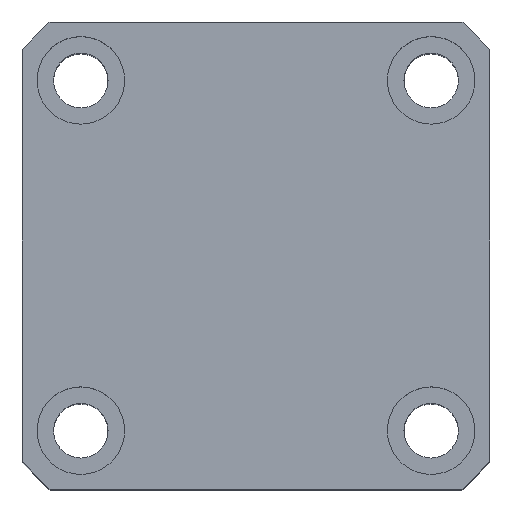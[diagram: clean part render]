
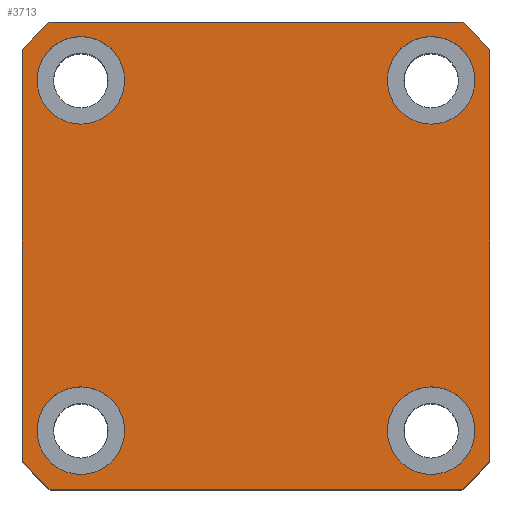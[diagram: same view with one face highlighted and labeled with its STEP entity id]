
A CAD part, top view. The second image highlights one B-rep face of the part: STEP entity #3713.
In plain terms, the highlighted planar face has unit normal (0, 0, 1) as drawn and (1, 0, 0) by its records, which use the part's own axes.
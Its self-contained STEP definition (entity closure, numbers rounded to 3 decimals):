
#16 = ORIENTED_EDGE ( 'NONE', *, *, #7420, .F. ) ;
#84 = EDGE_CURVE ( 'NONE', #7331, #7731, #7728, .T. ) ;
#226 = EDGE_CURVE ( 'NONE', #2136, #336, #976, .T. ) ;
#336 = VERTEX_POINT ( 'NONE', #572 ) ;
#419 = DIRECTION ( 'NONE',  ( 0., 0., -1. ) ) ;
#422 = CARTESIAN_POINT ( 'NONE',  ( 55., 21.166, 24. ) ) ;
#466 = AXIS2_PLACEMENT_3D ( 'NONE', #6757, #3056, #7376 ) ;
#572 = CARTESIAN_POINT ( 'NONE',  ( 55., 24., -21.166 ) ) ;
#645 = ORIENTED_EDGE ( 'NONE', *, *, #7088, .T. ) ;
#722 = AXIS2_PLACEMENT_3D ( 'NONE', #7532, #7505, #7385 ) ;
#737 = ORIENTED_EDGE ( 'NONE', *, *, #6984, .T. ) ;
#741 = VERTEX_POINT ( 'NONE', #3763 ) ;
#763 = CARTESIAN_POINT ( 'NONE',  ( 55., 24., -24. ) ) ;
#933 = VERTEX_POINT ( 'NONE', #7943 ) ;
#952 = CARTESIAN_POINT ( 'NONE',  ( 55., 18., 22.5 ) ) ;
#965 = AXIS2_PLACEMENT_3D ( 'NONE', #5442, #5469, #5523 ) ;
#968 = EDGE_LOOP ( 'NONE', ( #1481, #5223 ) ) ;
#976 = CIRCLE ( 'NONE', #722, 32. ) ;
#986 = CIRCLE ( 'NONE', #965, 4.5 ) ;
#1043 = EDGE_CURVE ( 'NONE', #5661, #2515, #986, .T. ) ;
#1115 = AXIS2_PLACEMENT_3D ( 'NONE', #3331, #7651, #3973 ) ;
#1153 = EDGE_LOOP ( 'NONE', ( #645, #2388, #5836, #3103, #7415, #737, #2576, #6685 ) ) ;
#1233 = AXIS2_PLACEMENT_3D ( 'NONE', #4364, #7487, #6172 ) ;
#1417 = DIRECTION ( 'NONE',  ( 1., 0., 0. ) ) ;
#1420 = CARTESIAN_POINT ( 'NONE',  ( 55., -21.166, 24. ) ) ;
#1456 = EDGE_CURVE ( 'NONE', #2853, #1555, #7450, .T. ) ;
#1464 = CARTESIAN_POINT ( 'NONE',  ( 55., -18., -22.5 ) ) ;
#1481 = ORIENTED_EDGE ( 'NONE', *, *, #2280, .F. ) ;
#1537 = EDGE_LOOP ( 'NONE', ( #4432, #16 ) ) ;
#1555 = VERTEX_POINT ( 'NONE', #7543 ) ;
#1619 = EDGE_CURVE ( 'NONE', #1555, #2853, #3383, .T. ) ;
#1707 = CARTESIAN_POINT ( 'NONE',  ( 55., -21.166, -24. ) ) ;
#1901 = CARTESIAN_POINT ( 'NONE',  ( 55., 18., 13.5 ) ) ;
#2059 = CARTESIAN_POINT ( 'NONE',  ( 55., -18., 18. ) ) ;
#2086 = ORIENTED_EDGE ( 'NONE', *, *, #1456, .F. ) ;
#2105 = EDGE_CURVE ( 'NONE', #5103, #741, #5334, .T. ) ;
#2136 = VERTEX_POINT ( 'NONE', #4570 ) ;
#2153 = VECTOR ( 'NONE', #2619, 1000. ) ;
#2248 = DIRECTION ( 'NONE',  ( 1., 0., 0. ) ) ;
#2280 = EDGE_CURVE ( 'NONE', #741, #5103, #7816, .T. ) ;
#2372 = FACE_BOUND ( 'NONE', #1537, .T. ) ;
#2376 = PLANE ( 'NONE',  #466 ) ;
#2388 = ORIENTED_EDGE ( 'NONE', *, *, #226, .T. ) ;
#2504 = CARTESIAN_POINT ( 'NONE',  ( 55., 0., 0. ) ) ;
#2515 = VERTEX_POINT ( 'NONE', #952 ) ;
#2576 = ORIENTED_EDGE ( 'NONE', *, *, #5620, .T. ) ;
#2590 = CARTESIAN_POINT ( 'NONE',  ( 55., -18., 22.5 ) ) ;
#2619 = DIRECTION ( 'NONE',  ( 0., 1., 0. ) ) ;
#2678 = DIRECTION ( 'NONE',  ( 0., 0., -1. ) ) ;
#2690 = CARTESIAN_POINT ( 'NONE',  ( 55., -18., 18. ) ) ;
#2702 = EDGE_CURVE ( 'NONE', #4605, #2866, #6458, .T. ) ;
#2736 = CIRCLE ( 'NONE', #3415, 4.5 ) ;
#2853 = VERTEX_POINT ( 'NONE', #5707 ) ;
#2866 = VERTEX_POINT ( 'NONE', #6927 ) ;
#2891 = DIRECTION ( 'NONE',  ( 1., 0., 0. ) ) ;
#2916 = EDGE_LOOP ( 'NONE', ( #2086, #5197 ) ) ;
#2986 = DIRECTION ( 'NONE',  ( 1., 0., 0. ) ) ;
#3051 = CARTESIAN_POINT ( 'NONE',  ( 55., -18., -18. ) ) ;
#3056 = DIRECTION ( 'NONE',  ( 1., 0., 0. ) ) ;
#3103 = ORIENTED_EDGE ( 'NONE', *, *, #7807, .T. ) ;
#3142 = DIRECTION ( 'NONE',  ( 0., 0., -1. ) ) ;
#3146 = AXIS2_PLACEMENT_3D ( 'NONE', #2690, #7001, #3308 ) ;
#3225 = ORIENTED_EDGE ( 'NONE', *, *, #2702, .F. ) ;
#3308 = DIRECTION ( 'NONE',  ( 0., 0., -1. ) ) ;
#3331 = CARTESIAN_POINT ( 'NONE',  ( 55., 0., 0. ) ) ;
#3383 = CIRCLE ( 'NONE', #3718, 4.5 ) ;
#3415 = AXIS2_PLACEMENT_3D ( 'NONE', #5951, #2248, #6568 ) ;
#3677 = DIRECTION ( 'NONE',  ( 0., 0., -1. ) ) ;
#3692 = DIRECTION ( 'NONE',  ( 0., -1., 0. ) ) ;
#3713 = ADVANCED_FACE ( 'NONE', ( #7096, #4233, #4025, #2372, #3840 ), #2376, .T. ) ;
#3718 = AXIS2_PLACEMENT_3D ( 'NONE', #3752, #1417, #419 ) ;
#3752 = CARTESIAN_POINT ( 'NONE',  ( 55., 18., -18. ) ) ;
#3763 = CARTESIAN_POINT ( 'NONE',  ( 55., -18., 13.5 ) ) ;
#3809 = LINE ( 'NONE', #763, #2153 ) ;
#3840 = FACE_OUTER_BOUND ( 'NONE', #1153, .T. ) ;
#3912 = CARTESIAN_POINT ( 'NONE',  ( 55., 24., 24. ) ) ;
#3926 = VERTEX_POINT ( 'NONE', #4996 ) ;
#3973 = DIRECTION ( 'NONE',  ( 0., 0., -1. ) ) ;
#4025 = FACE_BOUND ( 'NONE', #2916, .T. ) ;
#4086 = CIRCLE ( 'NONE', #5861, 4.5 ) ;
#4222 = EDGE_CURVE ( 'NONE', #336, #4366, #6997, .T. ) ;
#4233 = FACE_BOUND ( 'NONE', #968, .T. ) ;
#4364 = CARTESIAN_POINT ( 'NONE',  ( 55., 18., -18. ) ) ;
#4366 = VERTEX_POINT ( 'NONE', #5561 ) ;
#4372 = DIRECTION ( 'NONE',  ( 0., 0., -1. ) ) ;
#4432 = ORIENTED_EDGE ( 'NONE', *, *, #1043, .F. ) ;
#4475 = VECTOR ( 'NONE', #3692, 1000. ) ;
#4570 = CARTESIAN_POINT ( 'NONE',  ( 55., 21.166, -24. ) ) ;
#4605 = VERTEX_POINT ( 'NONE', #1464 ) ;
#4996 = CARTESIAN_POINT ( 'NONE',  ( 55., -24., -21.166 ) ) ;
#5103 = VERTEX_POINT ( 'NONE', #2590 ) ;
#5107 = AXIS2_PLACEMENT_3D ( 'NONE', #6597, #2891, #7207 ) ;
#5134 = DIRECTION ( 'NONE',  ( 0., 0., 1. ) ) ;
#5197 = ORIENTED_EDGE ( 'NONE', *, *, #1619, .F. ) ;
#5209 = AXIS2_PLACEMENT_3D ( 'NONE', #2504, #6832, #3142 ) ;
#5223 = ORIENTED_EDGE ( 'NONE', *, *, #2105, .F. ) ;
#5251 = CIRCLE ( 'NONE', #1115, 32. ) ;
#5334 = CIRCLE ( 'NONE', #3146, 4.5 ) ;
#5442 = CARTESIAN_POINT ( 'NONE',  ( 55., 18., 18. ) ) ;
#5469 = DIRECTION ( 'NONE',  ( 1., 0., 0. ) ) ;
#5487 = AXIS2_PLACEMENT_3D ( 'NONE', #3051, #7371, #3677 ) ;
#5523 = DIRECTION ( 'NONE',  ( 0., 0., -1. ) ) ;
#5561 = CARTESIAN_POINT ( 'NONE',  ( 55., 24., 21.166 ) ) ;
#5587 = VECTOR ( 'NONE', #5134, 1000. ) ;
#5616 = ORIENTED_EDGE ( 'NONE', *, *, #6124, .F. ) ;
#5619 = EDGE_LOOP ( 'NONE', ( #3225, #5616 ) ) ;
#5620 = EDGE_CURVE ( 'NONE', #933, #3926, #6131, .T. ) ;
#5661 = VERTEX_POINT ( 'NONE', #1901 ) ;
#5707 = CARTESIAN_POINT ( 'NONE',  ( 55., 18., -22.5 ) ) ;
#5836 = ORIENTED_EDGE ( 'NONE', *, *, #4222, .T. ) ;
#5861 = AXIS2_PLACEMENT_3D ( 'NONE', #6697, #2986, #7299 ) ;
#5951 = CARTESIAN_POINT ( 'NONE',  ( 55., -18., -18. ) ) ;
#6035 = AXIS2_PLACEMENT_3D ( 'NONE', #2059, #6368, #2678 ) ;
#6124 = EDGE_CURVE ( 'NONE', #2866, #4605, #2736, .T. ) ;
#6131 = LINE ( 'NONE', #7996, #7383 ) ;
#6172 = DIRECTION ( 'NONE',  ( 0., 0., -1. ) ) ;
#6173 = EDGE_CURVE ( 'NONE', #3926, #6598, #7476, .T. ) ;
#6368 = DIRECTION ( 'NONE',  ( 1., 0., 0. ) ) ;
#6458 = CIRCLE ( 'NONE', #5487, 4.5 ) ;
#6568 = DIRECTION ( 'NONE',  ( 0., 0., -1. ) ) ;
#6597 = CARTESIAN_POINT ( 'NONE',  ( 55., 0., 0. ) ) ;
#6598 = VERTEX_POINT ( 'NONE', #1707 ) ;
#6675 = CARTESIAN_POINT ( 'NONE',  ( 55., 24., 24. ) ) ;
#6685 = ORIENTED_EDGE ( 'NONE', *, *, #6173, .T. ) ;
#6697 = CARTESIAN_POINT ( 'NONE',  ( 55., 18., 18. ) ) ;
#6757 = CARTESIAN_POINT ( 'NONE',  ( 55., 0., 0. ) ) ;
#6832 = DIRECTION ( 'NONE',  ( 1., 0., 0. ) ) ;
#6927 = CARTESIAN_POINT ( 'NONE',  ( 55., -18., -13.5 ) ) ;
#6984 = EDGE_CURVE ( 'NONE', #7731, #933, #7465, .T. ) ;
#6997 = LINE ( 'NONE', #6675, #5587 ) ;
#7001 = DIRECTION ( 'NONE',  ( 1., 0., 0. ) ) ;
#7088 = EDGE_CURVE ( 'NONE', #6598, #2136, #3809, .T. ) ;
#7096 = FACE_BOUND ( 'NONE', #5619, .T. ) ;
#7207 = DIRECTION ( 'NONE',  ( 0., 0., -1. ) ) ;
#7299 = DIRECTION ( 'NONE',  ( 0., 0., -1. ) ) ;
#7331 = VERTEX_POINT ( 'NONE', #422 ) ;
#7371 = DIRECTION ( 'NONE',  ( 1., 0., 0. ) ) ;
#7376 = DIRECTION ( 'NONE',  ( 0., 0., -1. ) ) ;
#7383 = VECTOR ( 'NONE', #4372, 1000. ) ;
#7385 = DIRECTION ( 'NONE',  ( 0., 0., -1. ) ) ;
#7415 = ORIENTED_EDGE ( 'NONE', *, *, #84, .T. ) ;
#7420 = EDGE_CURVE ( 'NONE', #2515, #5661, #4086, .T. ) ;
#7450 = CIRCLE ( 'NONE', #1233, 4.5 ) ;
#7465 = CIRCLE ( 'NONE', #5209, 32. ) ;
#7476 = CIRCLE ( 'NONE', #5107, 32. ) ;
#7487 = DIRECTION ( 'NONE',  ( 1., 0., 0. ) ) ;
#7505 = DIRECTION ( 'NONE',  ( 1., 0., 0. ) ) ;
#7532 = CARTESIAN_POINT ( 'NONE',  ( 55., 0., 0. ) ) ;
#7543 = CARTESIAN_POINT ( 'NONE',  ( 55., 18., -13.5 ) ) ;
#7651 = DIRECTION ( 'NONE',  ( 1., 0., 0. ) ) ;
#7728 = LINE ( 'NONE', #3912, #4475 ) ;
#7731 = VERTEX_POINT ( 'NONE', #1420 ) ;
#7807 = EDGE_CURVE ( 'NONE', #4366, #7331, #5251, .T. ) ;
#7816 = CIRCLE ( 'NONE', #6035, 4.5 ) ;
#7943 = CARTESIAN_POINT ( 'NONE',  ( 55., -24., 21.166 ) ) ;
#7996 = CARTESIAN_POINT ( 'NONE',  ( 55., -24., 24. ) ) ;
